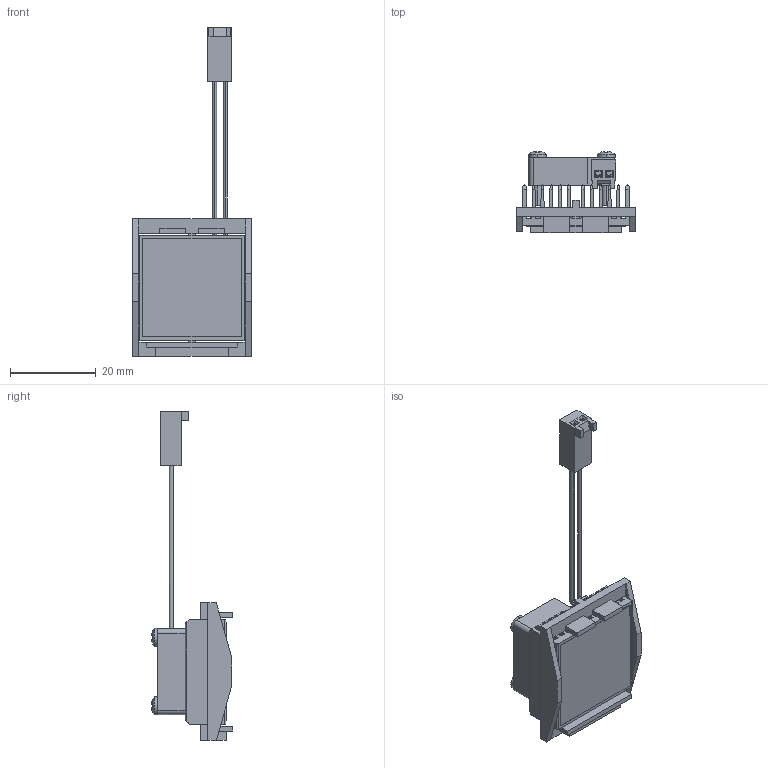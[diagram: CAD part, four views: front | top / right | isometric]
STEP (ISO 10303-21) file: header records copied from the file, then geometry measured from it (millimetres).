
FILE_DESCRIPTION (( 'STEP AP214' ), '1' );
FILE_NAME ('FI25-1.7+B.STEP', '2023-03-21T23:29:57', ( '' ), ( '' ), 'SwSTEP 2.0', 'SolidWorks 2020', '' );
FILE_SCHEMA (( 'AUTOMOTIVE_DESIGN' ));
Length unit declared in the file: millimetre
Products named in the file (1): FI25-1.7+B
Bounding box: 27.7 x 18.98 x 76.75 mm (x, y, z)
Volume: 5733.8 mm3; surface area: 12129.3 mm2
Topology: 7 solids, 7 shells, 414 faces, 1146 edges, 739 vertices
Faces by surface type: plane 247, cylinder 116, bspline 48, sphere 3
Entity records: 19313 total; most frequent: CARTESIAN_POINT 4567, ORIENTED_EDGE 2242, DIRECTION 1875, EDGE_CURVE 1121, VECTOR 755, LINE 755, VERTEX_POINT 736, AXIS2_PLACEMENT_3D 560
